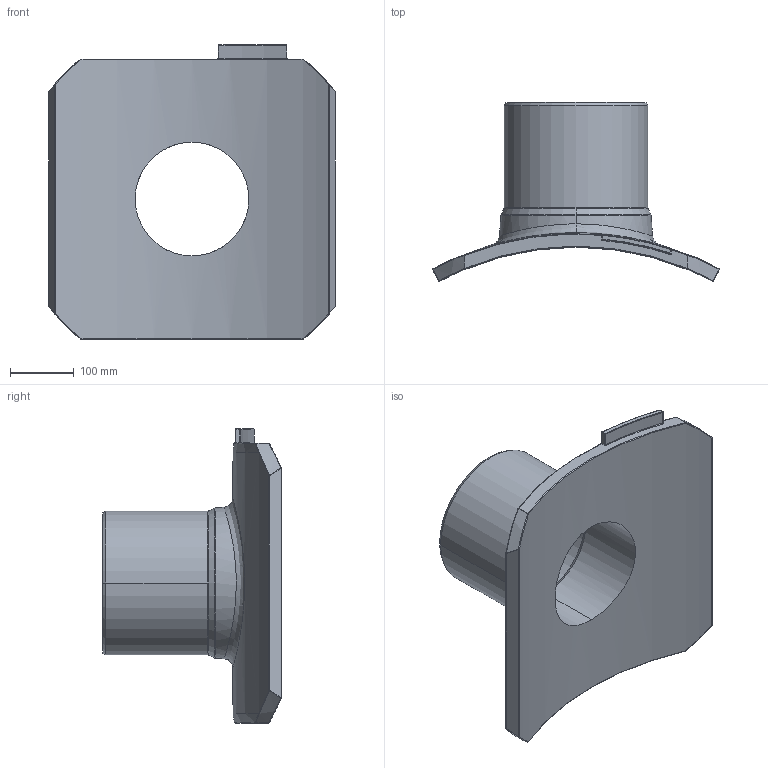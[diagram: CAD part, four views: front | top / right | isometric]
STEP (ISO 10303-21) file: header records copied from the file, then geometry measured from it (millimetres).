
FILE_DESCRIPTION((''),'2;1');
FILE_NAME('SA-UNI_D900_225_01','2024-07-01T11:36:23',('mikulicp'),(''),'CREO PARAMETRIC BY PTC INC, 2022124','CREO PARAMETRIC BY PTC INC, 2022124','');
FILE_SCHEMA(('AP242_MANAGED_MODEL_BASED_3D_ENGINEERING_MIM_LF { 1 0 10303 442 1 1 4 }'));
Length unit declared in the file: millimetre
Products named in the file (2): SA-UNI_D900_225_01; PE100
Bounding box: 448.18 x 279.78 x 460 mm (x, y, z)
Volume: 6876575.3 mm3; surface area: 653661.1 mm2
Topology: 1 solids, 1 shells, 235 faces, 569 edges, 352 vertices
Faces by surface type: bspline 74, plane 66, cylinder 49, sphere 20, torus 14, cone 12
Entity records: 14797 total; most frequent: CARTESIAN_POINT 6822, ORIENTED_EDGE 1138, DIRECTION 862, PRESENTATION_STYLE_ASSIGNMENT 581, STYLED_ITEM 570, CURVE_STYLE 569, EDGE_CURVE 569, VERTEX_POINT 352
